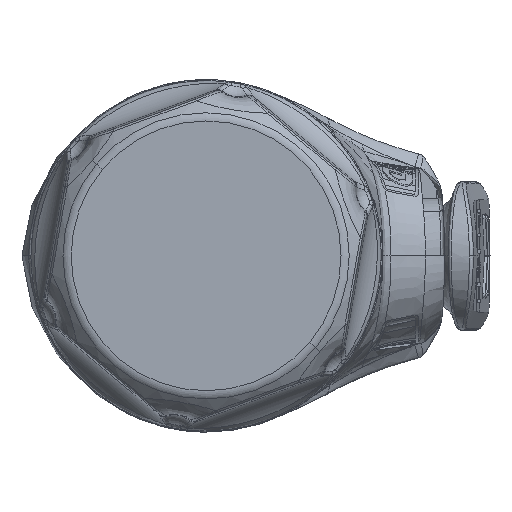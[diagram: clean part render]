
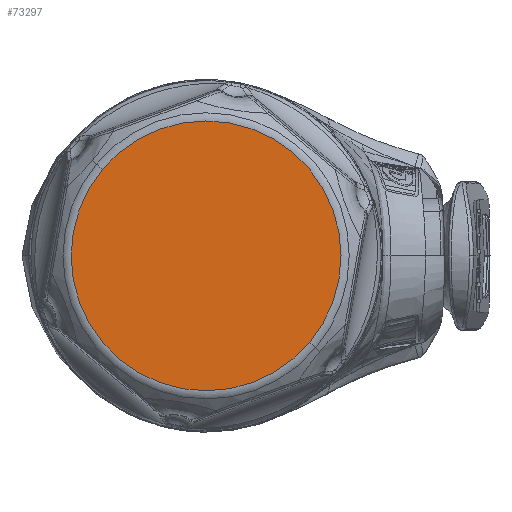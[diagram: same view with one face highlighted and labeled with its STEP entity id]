
A CAD part, left-side view. The second image highlights one B-rep face of the part: STEP entity #73297.
In plain terms, the highlighted planar face has unit normal (-1, 0, 0).
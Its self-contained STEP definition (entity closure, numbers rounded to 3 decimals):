
#5601 = CARTESIAN_POINT ( 'NONE',  ( -59.321, -11.016, 0. ) ) ;
#8325 = CIRCLE ( 'NONE', #19481, 11.016 ) ;
#12432 = AXIS2_PLACEMENT_3D ( 'NONE', #32561, #78877, #33404 ) ;
#12580 = FACE_OUTER_BOUND ( 'NONE', #48384, .T. ) ;
#14786 = VERTEX_POINT ( 'NONE', #83463 ) ;
#17841 = DIRECTION ( 'NONE',  ( 0., 0., -1. ) ) ;
#19481 = AXIS2_PLACEMENT_3D ( 'NONE', #60377, #26757, #45955 ) ;
#26757 = DIRECTION ( 'NONE',  ( 1., 0., 0. ) ) ;
#31925 = CIRCLE ( 'NONE', #12432, 11.016 ) ;
#32561 = CARTESIAN_POINT ( 'NONE',  ( -59.321, 0., 0. ) ) ;
#33404 = DIRECTION ( 'NONE',  ( 0., 0., -1. ) ) ;
#36705 = EDGE_CURVE ( 'NONE', #14786, #46629, #8325, .T. ) ;
#43169 = ORIENTED_EDGE ( 'NONE', *, *, #36705, .F. ) ;
#45955 = DIRECTION ( 'NONE',  ( 0., 0., -1. ) ) ;
#46629 = VERTEX_POINT ( 'NONE', #54091 ) ;
#48384 = EDGE_LOOP ( 'NONE', ( #76676, #43169 ) ) ;
#49493 = EDGE_CURVE ( 'NONE', #46629, #14786, #31925, .T. ) ;
#49925 = AXIS2_PLACEMENT_3D ( 'NONE', #5601, #64984, #17841 ) ;
#54091 = CARTESIAN_POINT ( 'NONE',  ( -59.321, -8.451, -7.067 ) ) ;
#60377 = CARTESIAN_POINT ( 'NONE',  ( -59.321, 0., 0. ) ) ;
#64984 = DIRECTION ( 'NONE',  ( 1., 0., 0. ) ) ;
#73297 = ADVANCED_FACE ( 'NONE', ( #12580 ), #84651, .F. ) ;
#76676 = ORIENTED_EDGE ( 'NONE', *, *, #49493, .F. ) ;
#78877 = DIRECTION ( 'NONE',  ( 1., 0., 0. ) ) ;
#83463 = CARTESIAN_POINT ( 'NONE',  ( -59.321, 8.451, 7.067 ) ) ;
#84651 = PLANE ( 'NONE',  #49925 ) ;
